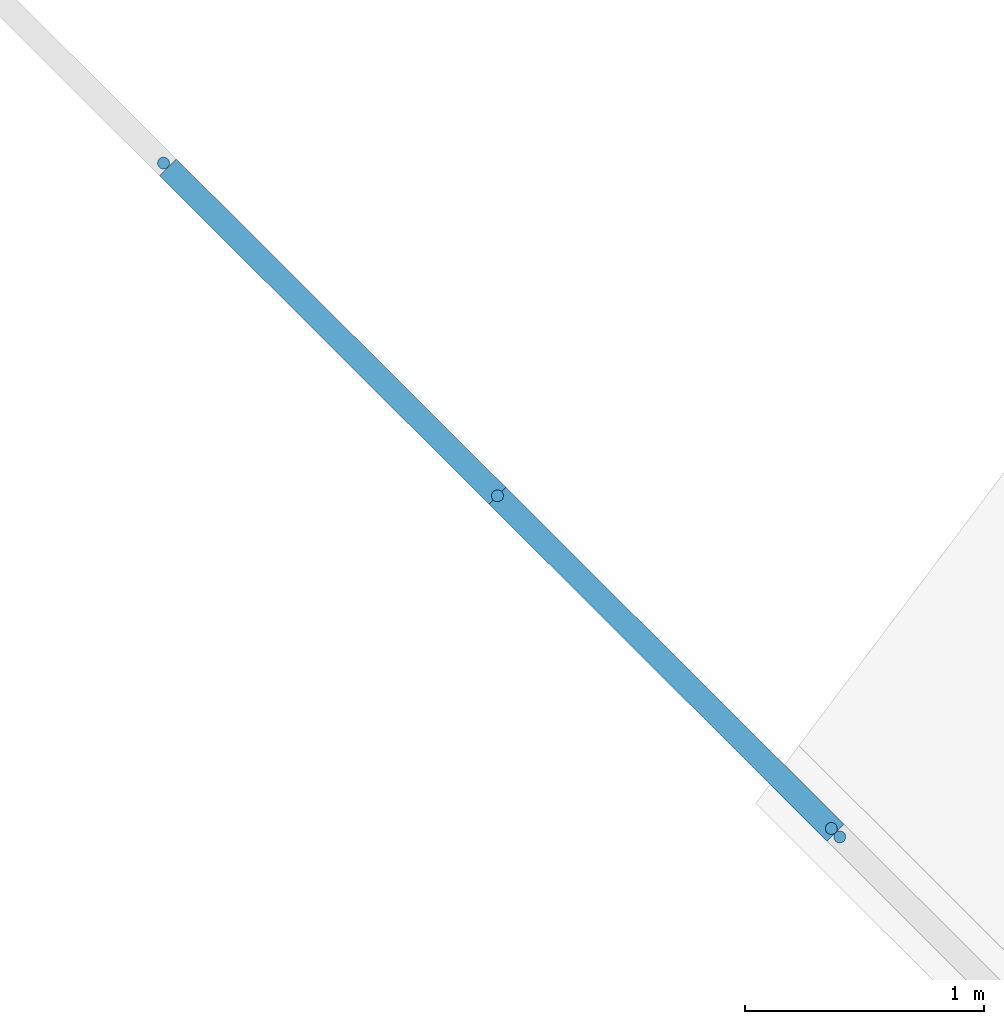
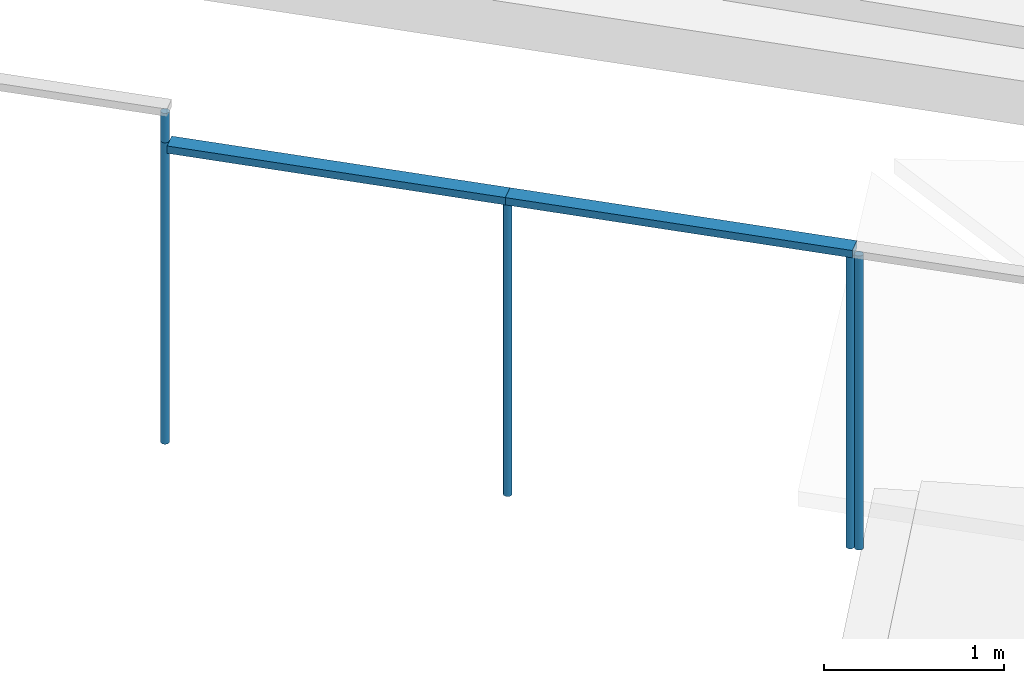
# One storey, part 9 of 33: 7 members, 3 elements without a shape of their own.
"""IFC2X3 building model written with IfcOpenShell, lengths in metres."""

from ifc_helpers import new_model, entity, si_unit, converted_unit, derived_unit, direction, frame, frame_2d, origin, origin_2d_with_axis, place, context, subcontext, project, spatial, rectangle, circle, extrude, source, transform, mapped, material, type_object, type_shapes, element, aggregate, save


model = new_model("IFC2X3")

# Units and contexts
model_context = context("Model", 3, precision=1e-05, world=origin(), true_north=direction((6.123031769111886e-17, 1.0)))
body_context = subcontext(model_context, "Body", "Model", "MODEL_VIEW")
ifc_project = project(units=[si_unit("LENGTHUNIT", "METRE"), si_unit("AREAUNIT", "SQUARE_METRE"), si_unit("VOLUMEUNIT", "CUBIC_METRE"), converted_unit("PLANEANGLEUNIT", "DEGREE", entity("IfcRatioMeasure", 0.017453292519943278), si_unit("PLANEANGLEUNIT", "RADIAN"), dimensions=[0, 0, 0, 0, 0, 0, 0]), si_unit("MASSUNIT", "GRAM", prefix="KILO"), derived_unit("MASSDENSITYUNIT", [(si_unit("MASSUNIT", "GRAM", prefix="KILO"), 1), (si_unit("LENGTHUNIT", "METRE"), -3)]), derived_unit("IONCONCENTRATIONUNIT", [(si_unit("MASSUNIT", "GRAM", prefix="KILO"), 1), (si_unit("LENGTHUNIT", "METRE"), -3)]), derived_unit("MOMENTOFINERTIAUNIT", [(si_unit("LENGTHUNIT", "METRE"), 4)]), si_unit("TIMEUNIT", "SECOND"), si_unit("FREQUENCYUNIT", "HERTZ"), si_unit("THERMODYNAMICTEMPERATUREUNIT", "DEGREE_CELSIUS"), derived_unit("THERMALTRANSMITTANCEUNIT", [(si_unit("MASSUNIT", "GRAM", prefix="KILO"), 1), (si_unit("THERMODYNAMICTEMPERATUREUNIT", "KELVIN"), -1), (si_unit("TIMEUNIT", "SECOND"), -3)]), derived_unit("THERMALCONDUCTANCEUNIT", [(si_unit("MASSUNIT", "GRAM", prefix="KILO"), 1), (si_unit("THERMODYNAMICTEMPERATUREUNIT", "KELVIN"), -1), (si_unit("TIMEUNIT", "SECOND"), -3), (si_unit("LENGTHUNIT", "METRE"), 1)]), derived_unit("VOLUMETRICFLOWRATEUNIT", [(si_unit("LENGTHUNIT", "METRE"), 3), (si_unit("TIMEUNIT", "SECOND"), -1)]), derived_unit("MASSFLOWRATEUNIT", [(si_unit("MASSUNIT", "GRAM", prefix="KILO"), 1), (si_unit("TIMEUNIT", "SECOND"), -1)]), derived_unit("ROTATIONALFREQUENCYUNIT", [(si_unit("TIMEUNIT", "SECOND"), -1)]), si_unit("ELECTRICCURRENTUNIT", "AMPERE"), si_unit("ELECTRICVOLTAGEUNIT", "VOLT"), si_unit("POWERUNIT", "WATT"), si_unit("FORCEUNIT", "NEWTON", prefix="KILO"), si_unit("ILLUMINANCEUNIT", "LUX"), si_unit("LUMINOUSFLUXUNIT", "LUMEN"), si_unit("LUMINOUSINTENSITYUNIT", "CANDELA"), derived_unit("USERDEFINED", [(si_unit("MASSUNIT", "GRAM", prefix="KILO"), -1), (si_unit("LENGTHUNIT", "METRE"), -2), (si_unit("TIMEUNIT", "SECOND"), 3), (si_unit("LUMINOUSFLUXUNIT", "LUMEN"), 1)]), derived_unit("USERDEFINED", [(si_unit("MASSUNIT", "GRAM", prefix="KILO"), 1), (si_unit("TIMEUNIT", "SECOND"), -3), (si_unit("LENGTHUNIT", "METRE"), 3), (si_unit("ELECTRICCURRENTUNIT", "AMPERE"), -2)]), derived_unit("SOUNDPOWERUNIT", [(si_unit("MASSUNIT", "GRAM", prefix="KILO"), 1), (si_unit("TIMEUNIT", "SECOND"), -3), (si_unit("LENGTHUNIT", "METRE"), 2)]), derived_unit("SOUNDPRESSUREUNIT", [(si_unit("MASSUNIT", "GRAM", prefix="KILO"), 1), (si_unit("LENGTHUNIT", "METRE"), -1), (si_unit("TIMEUNIT", "SECOND"), -2)]), derived_unit("LINEARVELOCITYUNIT", [(si_unit("LENGTHUNIT", "METRE"), 1), (si_unit("TIMEUNIT", "SECOND"), -1)]), si_unit("PRESSUREUNIT", "PASCAL"), derived_unit("USERDEFINED", [(si_unit("MASSUNIT", "GRAM", prefix="KILO"), 1), (si_unit("LENGTHUNIT", "METRE"), -2), (si_unit("TIMEUNIT", "SECOND"), -2)]), derived_unit("LINEARFORCEUNIT", [(si_unit("MASSUNIT", "GRAM", prefix="KILO"), 1), (si_unit("TIMEUNIT", "SECOND"), -2)]), derived_unit("PLANARFORCEUNIT", [(si_unit("MASSUNIT", "GRAM", prefix="KILO"), 1), (si_unit("LENGTHUNIT", "METRE"), -1), (si_unit("TIMEUNIT", "SECOND"), -2)]), derived_unit("SPECIFICHEATCAPACITYUNIT", [(si_unit("THERMODYNAMICTEMPERATUREUNIT", "KELVIN"), -1), (si_unit("LENGTHUNIT", "METRE"), 2), (si_unit("TIMEUNIT", "SECOND"), -2)]), derived_unit("HEATINGVALUEUNIT", [(si_unit("LENGTHUNIT", "METRE"), 2), (si_unit("TIMEUNIT", "SECOND"), -2)]), derived_unit("VAPORPERMEABILITYUNIT", [(si_unit("LENGTHUNIT", "METRE"), -1), (si_unit("TIMEUNIT", "SECOND"), 1)]), derived_unit("DYNAMICVISCOSITYUNIT", [(si_unit("MASSUNIT", "GRAM", prefix="KILO"), 1), (si_unit("TIMEUNIT", "SECOND"), -1), (si_unit("LENGTHUNIT", "METRE"), -1)]), derived_unit("THERMALEXPANSIONCOEFFICIENTUNIT", [(si_unit("THERMODYNAMICTEMPERATUREUNIT", "KELVIN"), -1)]), derived_unit("MODULUSOFELASTICITYUNIT", [(si_unit("MASSUNIT", "GRAM", prefix="KILO"), 1), (si_unit("LENGTHUNIT", "METRE"), -1), (si_unit("TIMEUNIT", "SECOND"), -2)]), derived_unit("ISOTHERMALMOISTURECAPACITYUNIT", [(si_unit("LENGTHUNIT", "METRE"), 3), (si_unit("MASSUNIT", "GRAM", prefix="KILO"), -1)]), derived_unit("MOISTUREDIFFUSIVITYUNIT", [(si_unit("TIMEUNIT", "SECOND"), -1), (si_unit("LENGTHUNIT", "METRE"), 2)])], contexts=[model_context])

# Site, building, storey
site_placement = place(None, origin())
site = spatial("IfcSite", under=ifc_project, at=site_placement, Name="Superficie", CompositionType="ELEMENT")
building_placement = place(site_placement, frame((0.0, 0.0, 235.0), z_axis=(0.0, 0.0, 1.0), x_axis=(-0.7996477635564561, 0.6004693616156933, 0.0)))
building = spatial("IfcBuilding", under=site, at=building_placement, CompositionType="ELEMENT")
storey_placement = place(building_placement, origin())
storey = spatial("IfcBuildingStorey", under=building, at=storey_placement, Name="P0- Escola", CompositionType="ELEMENT", Elevation=0.0)

# Curtain wall, members
curtain_wall_type = type_object("IfcCurtainWallType", Name="Muro cortina:SER EXT- Tanca exterior", PredefinedType="NOTDEFINED")
curtain_wall_1_placement = place(storey_placement, origin())
curtain_wall_1 = element("IfcCurtainWall", 1, at=curtain_wall_1_placement, inside=storey, type_object=curtain_wall_type, Name="Muro cortina:SER EXT- Tanca exterior", ObjectType="Muro cortina:SER EXT- Tanca exterior")
ifc_material_1 = material(Name="Acero inoxidable")
member_type_1 = type_object("IfcMemberType", Name="Montante circular:Perfil Tanca exterior", PredefinedType="MULLION", material=ifc_material_1)
shared_shape_1 = source(origin(), body_context, "Body", "SweptSolid", [
    extrude(circle(Radius=0.025, at=frame_2d((-2.1149748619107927e-18, -4.0388614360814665e-17), x_axis=(1.0, 0.0))), frame((0.0, 0.0, -2.0), z_axis=(0.0, 0.0, 1.0), x_axis=(-1.0, 0.0, 0.0)), (0.0, 0.0, 1.0), 1.9999999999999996),
])
type_shapes(member_type_1, [shared_shape_1])
member_1_placement = place(curtain_wall_1_placement, frame((32.97223036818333, -7.161573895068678, 1.72), z_axis=(0.0, 0.0, -1.0), x_axis=(0.9902804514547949, -0.1390849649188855, 0.0)))
member_1 = element("IfcMember", 2, at=member_1_placement, type_object=member_type_1, material=ifc_material_1, Name="Montante circular:Perfil Tanca exterior", ObjectType="Montante circular:Perfil Tanca exterior", context=body_context, shape_type="MappedRepresentation", body=[
    mapped(shared_shape_1, transform((0.0, 0.0, 0.0), scale=1.0)),
])
member_type_2 = type_object("IfcMemberType", Name="Montante circular:Perfil Tanca exterior", PredefinedType="MULLION", material=ifc_material_1)
shared_shape_2 = source(origin(), body_context, "Body", "SweptSolid", [
    extrude(circle(Radius=0.025, at=frame_2d((-1.304992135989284e-31, 4.038861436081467e-17), x_axis=(1.0, 0.0))), frame((-0.025, 0.0, -2.0)), (0.0, 0.0, 1.0), 1.9999999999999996),
])
type_shapes(member_type_2, [shared_shape_2])
member_2_placement = place(curtain_wall_1_placement, frame((30.991669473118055, -6.88340396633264, 3.7199999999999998), z_axis=(0.0, 0.0, 1.0), x_axis=(-0.9902804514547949, 0.1390849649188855, 0.0)))
member_2 = element("IfcMember", 3, at=member_2_placement, type_object=member_type_2, material=ifc_material_1, Name="Montante circular:Perfil Tanca exterior", ObjectType="Montante circular:Perfil Tanca exterior", context=body_context, shape_type="MappedRepresentation", body=[
    mapped(shared_shape_2, transform((0.0, 0.0, 0.0), scale=1.0)),
])

# Curtain wall, member
curtain_wall_2_placement = place(storey_placement, origin())
curtain_wall_2 = element("IfcCurtainWall", 4, at=curtain_wall_2_placement, inside=storey, type_object=curtain_wall_type, Name="Muro cortina:SER EXT- Tanca exterior", ObjectType="Muro cortina:SER EXT- Tanca exterior")
member_3_placement = place(curtain_wall_2_placement, frame((34.90327724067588, -7.432789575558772, 3.9699999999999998), z_axis=(0.0, 0.0, 1.0), x_axis=(-0.9902804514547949, 0.1390849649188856, 0.0)))
member_3 = element("IfcMember", 5, at=member_3_placement, type_object=member_type_2, material=ifc_material_1, Name="Montante circular:Perfil Tanca exterior", ObjectType="Montante circular:Perfil Tanca exterior", context=body_context, shape_type="MappedRepresentation", body=[
    mapped(shared_shape_2, transform((0.0, 0.0, 0.0), scale=1.0)),
])
aggregate(curtain_wall_2, [member_3])

curtain_wall_3_placement = place(storey_placement, origin())
curtain_wall_3 = element("IfcCurtainWall", 6, at=curtain_wall_3_placement, inside=storey, type_object=curtain_wall_type, Name="Muro cortina:SER EXT- Tanca exterior", ObjectType="Muro cortina:SER EXT- Tanca exterior")
member_type_3 = type_object("IfcMemberType", Name="Montante circular:Perfil Tanca exterior", PredefinedType="MULLION", material=ifc_material_1)
shared_shape_3 = source(origin(), body_context, "Body", "SweptSolid", [
    extrude(circle(Radius=0.025, at=frame_2d((1.3661718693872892e-31, -4.46185640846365e-17), x_axis=(1.0, 0.0))), frame((-0.025, 0.0, -2.0), z_axis=(0.0, 0.0, 1.0), x_axis=(-1.0, 0.0, 0.0)), (0.0, 0.0, 1.0), 1.9999999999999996),
])
type_shapes(member_type_3, [shared_shape_3])
member_4_placement = place(curtain_wall_3_placement, frame((30.991669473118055, -6.88340396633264, 1.72), z_axis=(0.0, 0.0, -1.0), x_axis=(0.9902804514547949, -0.1390849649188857, 0.0)))
member_4 = element("IfcMember", 7, at=member_4_placement, type_object=member_type_3, material=ifc_material_1, Name="Montante circular:Perfil Tanca exterior", ObjectType="Montante circular:Perfil Tanca exterior", context=body_context, shape_type="MappedRepresentation", body=[
    mapped(shared_shape_3, transform((0.0, 0.0, 0.0), scale=1.0)),
])
aggregate(curtain_wall_3, [member_4])

# Member
member_type_4 = type_object("IfcMemberType", Name="Montante circular:Perfil Tanca exterior", PredefinedType="MULLION", material=ifc_material_1)
shared_shape_4 = source(origin(), body_context, "Body", "SweptSolid", [
    extrude(circle(Radius=0.025, at=frame_2d((1.3661718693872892e-31, -4.46185640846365e-17), x_axis=(1.0, 0.0))), frame((-0.025, 0.0, -2.0499999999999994), z_axis=(0.0, 0.0, 1.0), x_axis=(-1.0, 0.0, 0.0)), (0.0, 0.0, 1.0), 2.0499999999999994),
])
type_shapes(member_type_4, [shared_shape_4])
member_5_placement = place(curtain_wall_1_placement, frame((34.95279126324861, -7.439743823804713, 1.72), z_axis=(0.0, 0.0, -1.0), x_axis=(0.9902804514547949, -0.1390849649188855, 0.0)))
member_5 = element("IfcMember", 8, at=member_5_placement, type_object=member_type_4, material=ifc_material_1, Name="Montante circular:Perfil Tanca exterior", ObjectType="Montante circular:Perfil Tanca exterior", context=body_context, shape_type="MappedRepresentation", body=[
    mapped(shared_shape_4, transform((0.0, 0.0, 0.0), scale=1.0)),
])

ifc_material_2 = material(Name="_Formigó- Solera- T1- STR")
member_type_5 = type_object("IfcMemberType", Name="Montante rectangular:Montante rectangular 100x50", PredefinedType="MULLION", material=ifc_material_2)
shared_shape_5 = source(origin(), body_context, "Body", "SweptSolid", [
    extrude(rectangle(XDim=0.1, YDim=0.05000000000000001, at=origin_2d_with_axis()), frame((-0.025000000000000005, 0.0, -1.9499999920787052), z_axis=(0.0, 0.0, 1.0), x_axis=(0.0, -1.0, 0.0)), (0.0, 0.0, 1.0), 1.9499999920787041),
])
type_shapes(member_type_5, [shared_shape_5])
member_6_placement = place(curtain_wall_1_placement, frame((34.90327724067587, -7.432789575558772, 3.7699999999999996), z_axis=(0.9902804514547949, -0.1390849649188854, 0.0), x_axis=(0.0, 0.0, 1.0)))
member_6 = element("IfcMember", 9, at=member_6_placement, type_object=member_type_5, material=ifc_material_2, Name="Montante rectangular:Montante rectangular 100x50", ObjectType="Montante rectangular:Montante rectangular 100x50", context=body_context, shape_type="MappedRepresentation", body=[
    mapped(shared_shape_5, transform((0.0, 0.0, 0.0), scale=1.0)),
])

member_type_6 = type_object("IfcMemberType", Name="Montante rectangular:Montante rectangular 100x50", PredefinedType="MULLION", material=ifc_material_2)
shared_shape_6 = source(origin(), body_context, "Body", "SweptSolid", [
    extrude(rectangle(XDim=0.1, YDim=0.05000000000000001, at=origin_2d_with_axis()), frame((-0.025000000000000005, 0.0, -1.9999999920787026), z_axis=(0.0, 0.0, 1.0), x_axis=(0.0, -1.0, 0.0)), (0.0, 0.0, 1.0), 1.999999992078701),
])
type_shapes(member_type_6, [shared_shape_6])
member_7_placement = place(curtain_wall_1_placement, frame((32.97223036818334, -7.161573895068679, 3.7699999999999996), z_axis=(0.9902804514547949, -0.13908496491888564, 0.0), x_axis=(0.0, 0.0, 1.0)))
member_7 = element("IfcMember", 10, at=member_7_placement, type_object=member_type_6, material=ifc_material_2, Name="Montante rectangular:Montante rectangular 100x50", ObjectType="Montante rectangular:Montante rectangular 100x50", context=body_context, shape_type="MappedRepresentation", body=[
    mapped(shared_shape_6, transform((0.0, 0.0, 0.0), scale=1.0)),
])

aggregate(curtain_wall_1, [member_2, member_1, member_5, member_6, member_7])

save(model, "model.ifc")
